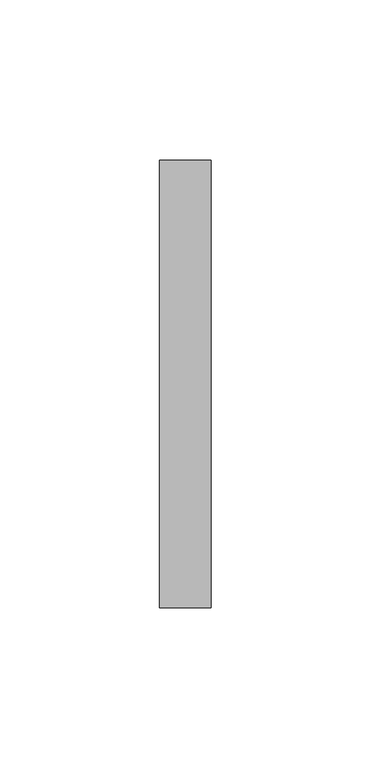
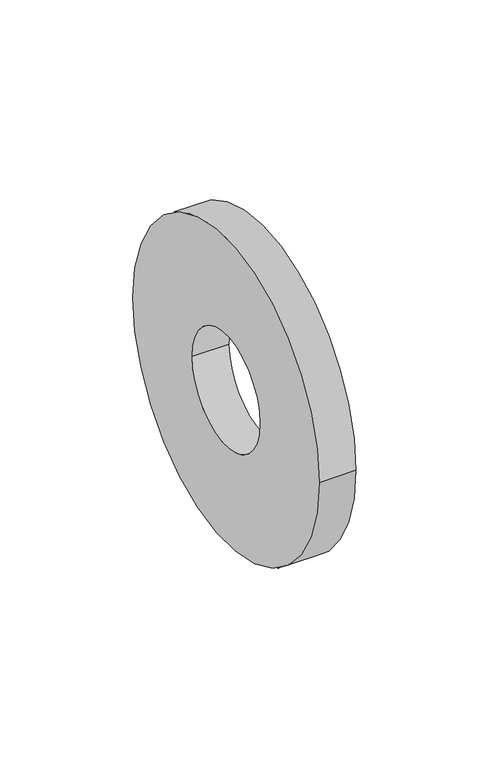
"""IFC4 building model written with IfcOpenShell, lengths in millimetres: pipe fitting geometry, NIRON accesorio brida : Estándar."""

from ifc_helpers import new_model, si_unit, point, frame, origin, origin_2d, place, context, project, spatial, circle_curve, trimmed, segment, composite_curve, outline, extrude, source, transform, mapped, element, save


def pipe_fitting_fdab5a28(model_context):
    return source(origin(), model_context, "Body", "SweptSolid", [
        extrude(outline(composite_curve([segment(trimmed(circle_curve(origin_2d(), 70.0), [point((70.0, 0.0))], [point((-70.0, 0.0))], False, "CARTESIAN"), True, "CONTINUOUS"), segment(trimmed(circle_curve(origin_2d(), 70.0), [point((-70.0, 0.0))], [point((70.0, 0.0))], False, "CARTESIAN"), True, "CONTINUOUS")], self_intersect=False), holes=[composite_curve([segment(trimmed(circle_curve(origin_2d(), 25.5), [point((25.5, 0.0))], [point((-25.5, 0.0))], True, "CARTESIAN"), True, "CONTINUOUS"), segment(trimmed(circle_curve(origin_2d(), 25.5), [point((-25.5, 0.0))], [point((25.5, 0.0))], True, "CARTESIAN"), True, "CONTINUOUS")], self_intersect=False)]), frame((2.4830127, 0.0, 0.0), z_axis=(1.0, 0.0, 0.0), x_axis=(0.0, 1.0, 0.0)), (0.0, 0.0, 1.0), 16.0),
    ])


if __name__ == "__main__":
    model = new_model("IFC4")
    model_context = context("Model", 3, world=origin())
    ifc_project = project(units=[si_unit("LENGTHUNIT", "METRE", prefix="MILLI")], contexts=[model_context])
    site = spatial("IfcSite", under=ifc_project)
    building = spatial("IfcBuilding", under=site)
    placement = place(None, origin())
    pipe_fitting_shape = pipe_fitting_fdab5a28(model_context)
    element("IfcPipeFitting", 1, ObjectType="NIRON accesorio brida : Estándar", at=placement, inside=building, context=model_context, shape_type="MappedRepresentation", body=[
        mapped(pipe_fitting_shape, transform((0.0, 0.0, 0.0), x_axis=(1.0, 0.0, 0.0), y_axis=(0.0, 1.0, 0.0), z_axis=(0.0, 0.0, 1.0))),
    ])
    save(model, "model.ifc")
